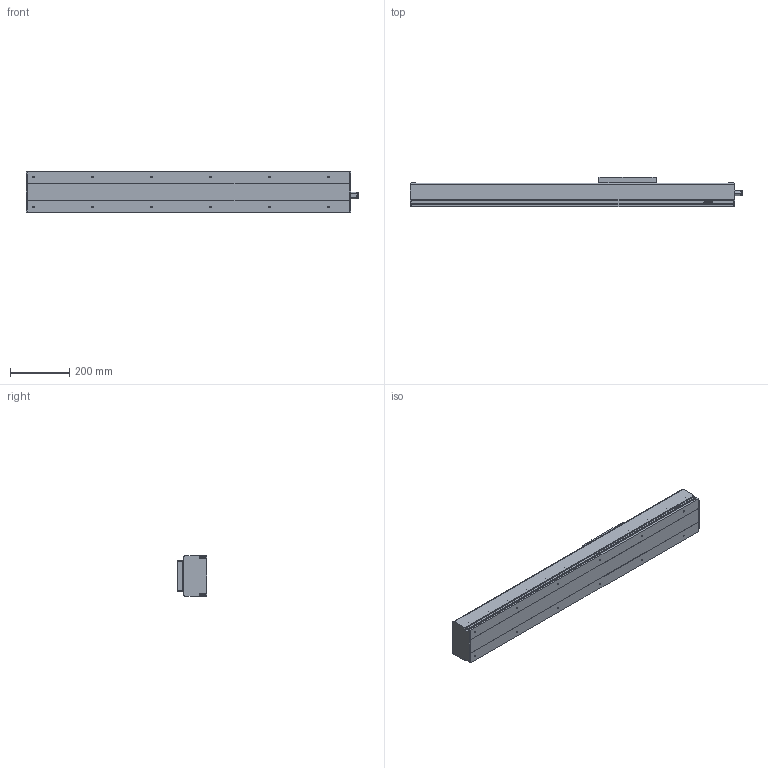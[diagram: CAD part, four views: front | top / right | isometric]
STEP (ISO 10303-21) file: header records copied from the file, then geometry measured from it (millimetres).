
FILE_DESCRIPTION(/* description */ (''),/* implementation_level */ '2;1');
FILE_NAME(/* name */ 'D:\混合母檔20191031\混和母檔\混和母檔\bin\Debug\Download\3D\KS140-10C-600AFI\KS140-10C-600AFI.stp',/* time_stamp */ '2019-11-04T15:33:05+08:00',/* author */ ('user'),/* organization */ (''),/* preprocessor_version */ 'ST-DEVELOPER v16.13',/* originating_system */ 'Autodesk Inventor 2018',/* authorisation */ '');
FILE_SCHEMA (('AUTOMOTIVE_DESIGN { 1 0 10303 214 3 1 1 }'));
Length unit declared in the file: millimetre
Products named in the file (3): KS140-10C-600AFI; KS140-FI-BP; KS140-SL
Assembly tree (2 placements, depth 2):
  KS140-10C-600AFI
    KS140-FI-BP
    KS140-SL
Bounding box: 1124.5 x 101 x 136 mm (x, y, z)
Volume: 4319760.5 mm3; surface area: 1116764.5 mm2
Topology: 4 solids, 8 shells, 683 faces, 1875 edges, 1231 vertices
Faces by surface type: plane 373, bspline 136, cylinder 80, cone 74, torus 16, sphere 4
Full cylindrical faces by diameter (mm): 3.571 x8, 4 x4, 4.134 x4, 4.3 x4, 4.917 x16, 6 x2, 8 x3, 8.4 x4, 12 x2, 13.1 x1, 15 x1, 18.75 x2, 46 x1, 50 x1
Entity records: 22057 total; most frequent: CARTESIAN_POINT 5917, ORIENTED_EDGE 3460, DIRECTION 2819, EDGE_CURVE 1729, VERTEX_POINT 1184, LINE 1143, VECTOR 1143, AXIS2_PLACEMENT_3D 838
